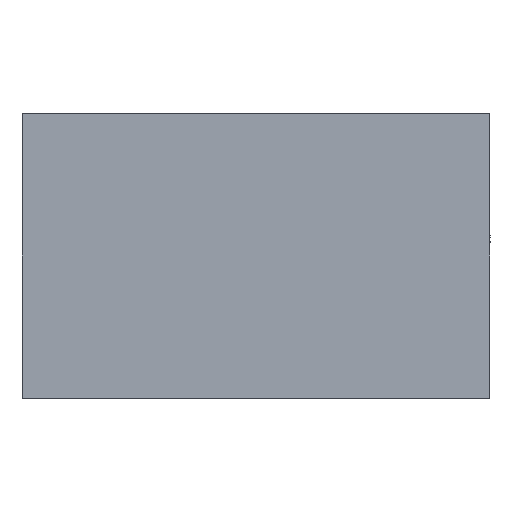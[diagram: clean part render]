
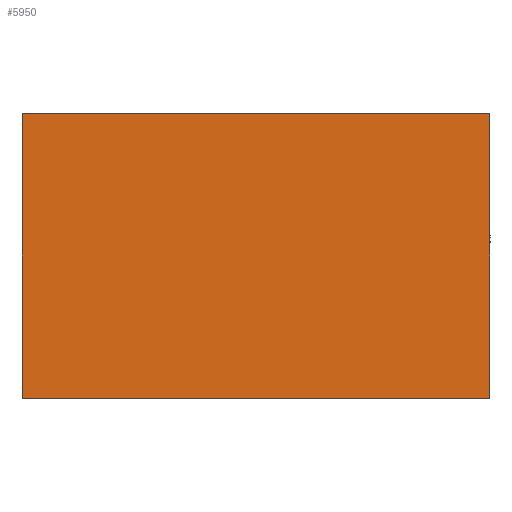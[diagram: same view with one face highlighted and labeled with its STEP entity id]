
A CAD part, front view. The second image highlights one B-rep face of the part: STEP entity #5950.
In plain terms, the highlighted planar face has unit normal (0, -1, 0).
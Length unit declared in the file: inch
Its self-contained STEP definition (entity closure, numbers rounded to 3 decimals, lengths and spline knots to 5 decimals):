
#150 = LINE ( 'NONE', #5201, #9592 ) ;
#233 = DIRECTION ( 'NONE',  ( -1., 0., 0. ) ) ;
#558 = LINE ( 'NONE', #982, #3865 ) ;
#823 = CARTESIAN_POINT ( 'NONE',  ( 11.5, 0., -7. ) ) ;
#917 = ORIENTED_EDGE ( 'NONE', *, *, #10450, .T. ) ;
#982 = CARTESIAN_POINT ( 'NONE',  ( 0., 0., 0. ) ) ;
#2696 = DIRECTION ( 'NONE',  ( 0., 0., -1. ) ) ;
#3007 = DIRECTION ( 'NONE',  ( 0., 0., -1. ) ) ;
#3403 = DIRECTION ( 'NONE',  ( -1., 0., 0. ) ) ;
#3865 = VECTOR ( 'NONE', #3007, 39.37008 ) ;
#4487 = CARTESIAN_POINT ( 'NONE',  ( 11.5, 0., 0. ) ) ;
#4667 = VERTEX_POINT ( 'NONE', #6749 ) ;
#5201 = CARTESIAN_POINT ( 'NONE',  ( 11.5, 0., 0. ) ) ;
#5950 = ADVANCED_FACE ( 'NONE', ( #12400 ), #9680, .F. ) ;
#6068 = VERTEX_POINT ( 'NONE', #6122 ) ;
#6122 = CARTESIAN_POINT ( 'NONE',  ( 11.5, 0., 0. ) ) ;
#6633 = ORIENTED_EDGE ( 'NONE', *, *, #10487, .F. ) ;
#6749 = CARTESIAN_POINT ( 'NONE',  ( 0., 0., 0. ) ) ;
#6775 = VECTOR ( 'NONE', #233, 39.37008 ) ;
#7548 = VECTOR ( 'NONE', #3403, 39.37008 ) ;
#8283 = AXIS2_PLACEMENT_3D ( 'NONE', #10022, #9438, #9376 ) ;
#8368 = ORIENTED_EDGE ( 'NONE', *, *, #10466, .T. ) ;
#8645 = EDGE_LOOP ( 'NONE', ( #8368, #9469, #6633, #917 ) ) ;
#9376 = DIRECTION ( 'NONE',  ( 0., 0., 1. ) ) ;
#9406 = VERTEX_POINT ( 'NONE', #10284 ) ;
#9438 = DIRECTION ( 'NONE',  ( 0., 1., 0. ) ) ;
#9469 = ORIENTED_EDGE ( 'NONE', *, *, #10468, .F. ) ;
#9592 = VECTOR ( 'NONE', #2696, 39.37008 ) ;
#9680 = PLANE ( 'NONE',  #8283 ) ;
#10022 = CARTESIAN_POINT ( 'NONE',  ( 11.5, 0., 0. ) ) ;
#10284 = CARTESIAN_POINT ( 'NONE',  ( 11.5, 0., -7. ) ) ;
#10450 = EDGE_CURVE ( 'NONE', #6068, #4667, #13505, .T. ) ;
#10466 = EDGE_CURVE ( 'NONE', #4667, #11065, #558, .T. ) ;
#10468 = EDGE_CURVE ( 'NONE', #9406, #11065, #13136, .T. ) ;
#10487 = EDGE_CURVE ( 'NONE', #6068, #9406, #150, .T. ) ;
#11065 = VERTEX_POINT ( 'NONE', #13690 ) ;
#12400 = FACE_OUTER_BOUND ( 'NONE', #8645, .T. ) ;
#13136 = LINE ( 'NONE', #823, #6775 ) ;
#13505 = LINE ( 'NONE', #4487, #7548 ) ;
#13690 = CARTESIAN_POINT ( 'NONE',  ( 0., 0., -7. ) ) ;
